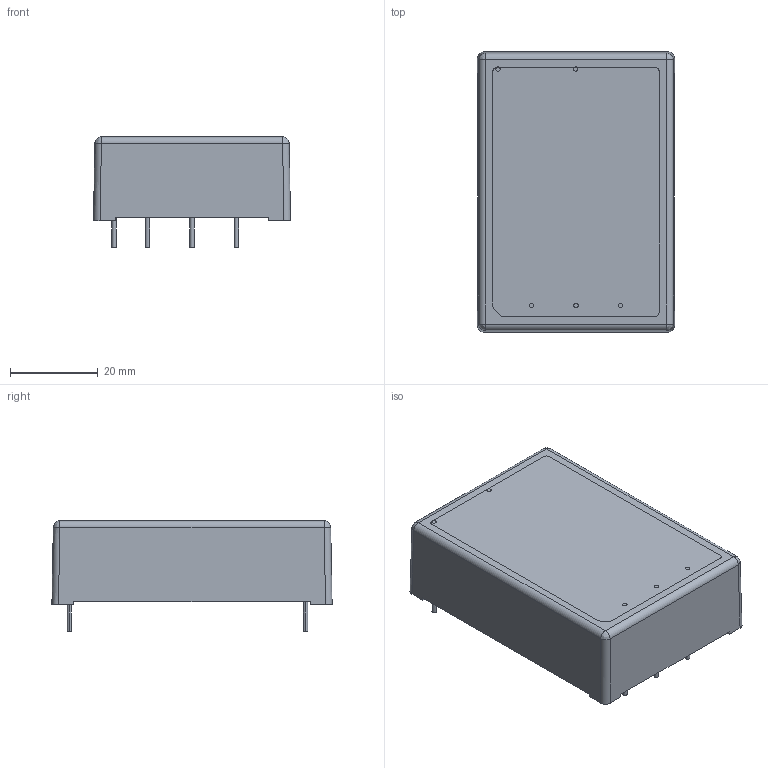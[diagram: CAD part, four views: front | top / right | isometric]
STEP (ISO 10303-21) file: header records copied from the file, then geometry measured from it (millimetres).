
FILE_DESCRIPTION (( 'STEP AP203' ), '1' );
FILE_NAME ('tmp10.STEP', '2013-03-25T14:03:48', ( '' ), ( '' ), 'SwSTEP 2.0', 'SolidWorks 2013', '' );
FILE_SCHEMA (( 'CONFIG_CONTROL_DESIGN' ));
Length unit declared in the file: millimetre
Products named in the file (4): tmp10; TMP 10 CASE; TMP 10 BASE; TMP 10 PIN
Assembly tree (7 placements, depth 2):
  tmp10
    TMP 10 CASE
    TMP 10 BASE
    TMP 10 PIN  x5
Bounding box: 45.02 x 64.02 x 25.2 mm (x, y, z)
Volume: 9188.5 mm3; surface area: 19299.9 mm2
Topology: 7 solids, 7 shells, 246 faces, 642 edges, 412 vertices
Faces by surface type: plane 172, cylinder 44, bspline 16, cone 10, sphere 4
Entity records: 8246 total; most frequent: CARTESIAN_POINT 2040, ORIENTED_EDGE 1228, DIRECTION 1096, EDGE_CURVE 614, VECTOR 496, LINE 496, VERTEX_POINT 396, AXIS2_PLACEMENT_3D 300
